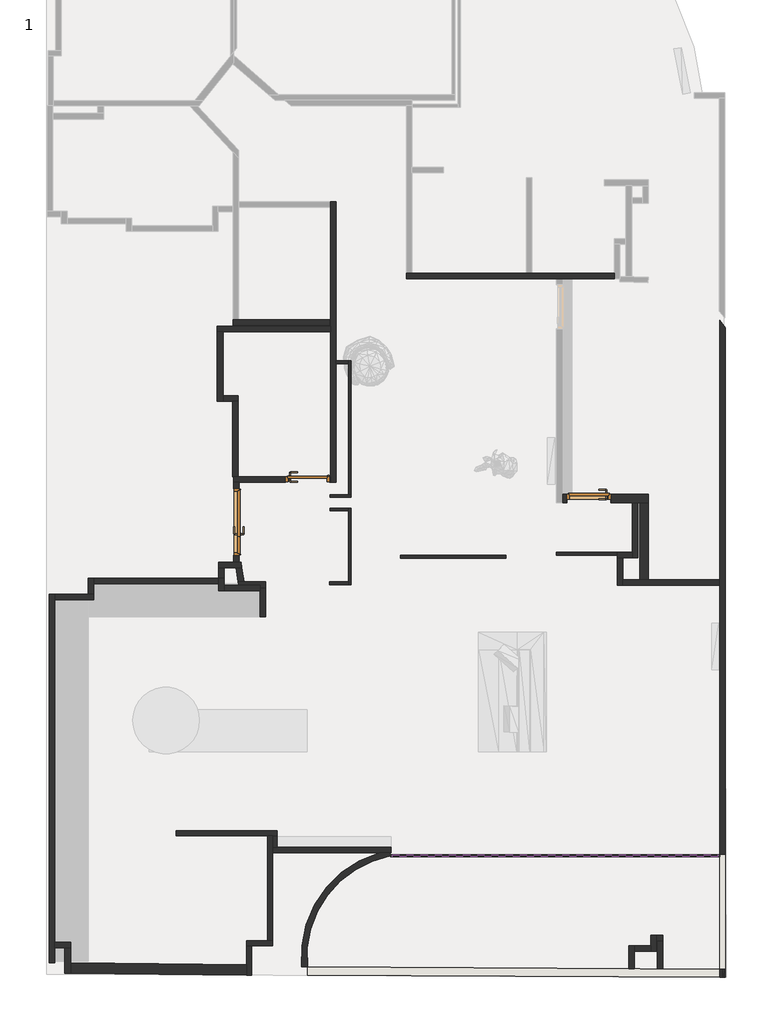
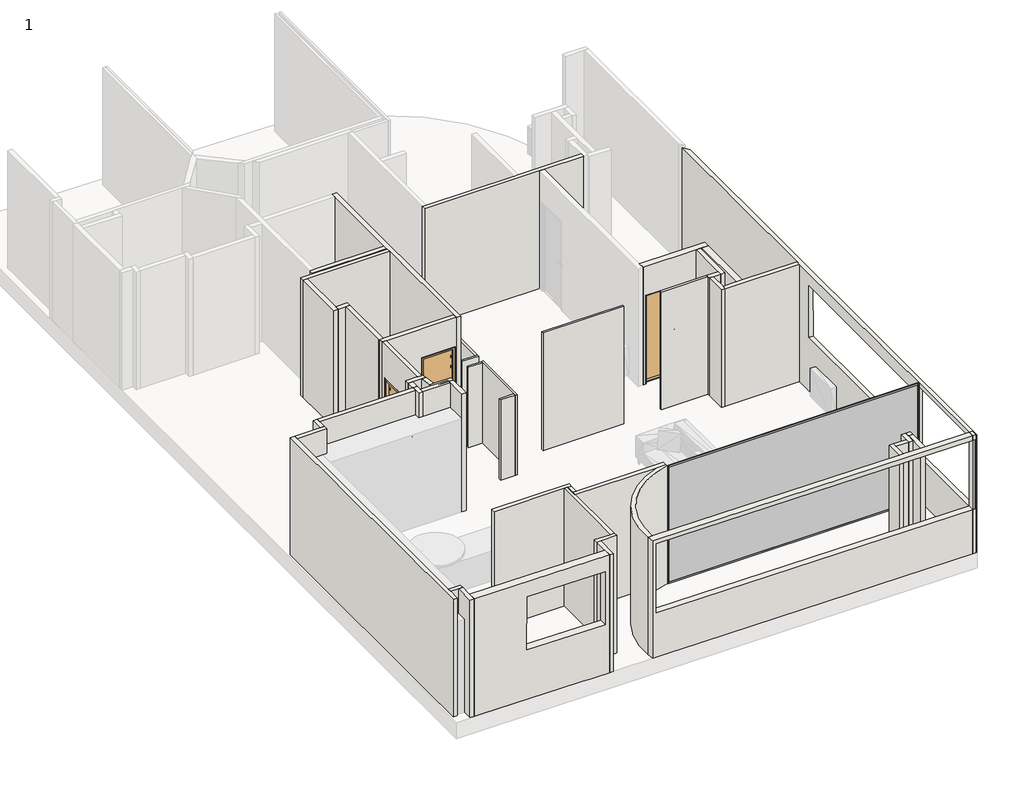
# One storey, part 1 of 11: 51 walls, 4 members, 3 doors, 1 plate.
"""IFC4 building model written with IfcOpenShell, lengths in millimetres."""

from ifc_helpers import new_model, si_unit, point, frame, frame_2d, origin, origin_with_axes, place, context, project, spatial, polyline, circle_curve, trimmed, segment, composite_curve, outline, extrude, faceted_brep, transform, mapped, element, save
from ifc_brep_helpers import plane_surface, cylinder_surface, advanced_brep
from components import door_2890b558, door_da3bd5c2, jw_interior_door_stable_401_unequal_double_1_0_84d4197c, jw_interior_door_stable_401_unequal_double_1_0_001e30e6, rectangular_mullion_30mm_square_bb45b953, rectangular_mullion_30mm_square_7a787dcd

model = new_model("IFC4")

# Units and contexts
model_context = context("Model", 3, world=origin())
ifc_project = project(units=[si_unit("LENGTHUNIT", "METRE", prefix="MILLI")], contexts=[model_context])

# Site, building, storey
site = spatial("IfcSite", under=ifc_project)
building = spatial("IfcBuilding", under=site)
storey = spatial("IfcBuildingStorey", under=building, Name="1", Elevation=0.0)

# Doors
placement = place(None, origin())
door_shape = door_2890b558(model_context)
element("IfcDoor", 1, ObjectType="JW_Interior_Door_Steady_411_Single_1.0 : 790 x 1890 mm - M8 x M19", at=placement, inside=storey, context=model_context, shape_type="MappedRepresentation", body=[
    mapped(door_shape, transform((92176.985489, -36173.730465, 0.0), x_axis=(1.0, 0.0, 0.0), y_axis=(0.0, 1.0, 0.0), z_axis=(0.0, 0.0, 1.0))),
])
door_2_shape = door_da3bd5c2(model_context)
element("IfcDoor", 2, ObjectType="JW_Interior_Door_Steady_411_Single_1.0 : 790 x 1890 mm - M8 x M19", at=placement, inside=storey, context=model_context, shape_type="MappedRepresentation", body=[
    mapped(door_2_shape, transform((97248.4901558, -36512.586633, 0.0), x_axis=(-1.0, 0.0, 0.0), y_axis=(0.0, -1.0, 0.0), z_axis=(0.0, 0.0, 1.0))),
])
jw_interior_door_stable_401_unequal_double_1_0_shape = jw_interior_door_stable_401_unequal_double_1_0_84d4197c(model_context)
jw_interior_door_stable_401_unequal_double_1_0_2_shape = jw_interior_door_stable_401_unequal_double_1_0_001e30e6(model_context)
element("IfcDoor", 3, ObjectType="JW_Interior_Door_Stable_401_Unequal_Double_1.0 : 1290 x 2090 mm - M13 (M10+30) x M21", at=placement, inside=storey, context=model_context, shape_type="MappedRepresentation", body=[
    mapped(jw_interior_door_stable_401_unequal_double_1_0_shape, transform((90897.0142855, -36938.730465, 0.0), x_axis=(0.0, 1.0, 0.0), y_axis=(-1.0, 0.0, 0.0), z_axis=(0.0, 0.0, 1.0))),
    mapped(jw_interior_door_stable_401_unequal_double_1_0_2_shape, transform((90897.0142855, -36938.730465, 0.0), x_axis=(0.0, 1.0, 0.0), y_axis=(-1.0, 0.0, 0.0), z_axis=(0.0, 0.0, 1.0))),
])

# Members
rectangular_mullion_30mm_square_shape = rectangular_mullion_30mm_square_bb45b953(model_context)
element("IfcMember", 4, ObjectType="Rectangular Mullion : 30mm Square", at=placement, inside=storey, context=model_context, shape_type="MappedRepresentation", body=[
    mapped(rectangular_mullion_30mm_square_shape, transform((99604.3502509, -42951.2807149, 0.0), x_axis=(1.0, 0.0, 0.0), y_axis=(0.0, -1.0, 0.0), z_axis=(0.0, 0.0, -1.0))),
])
element("IfcMember", 5, ObjectType="Rectangular Mullion : 30mm Square", at=placement, inside=storey, context=model_context, shape_type="MappedRepresentation", body=[
    mapped(rectangular_mullion_30mm_square_shape, transform((93676.9863057, -42951.2807149, 2930.0), x_axis=(-1.0, 0.0, 0.0), y_axis=(0.0, -1.0, 0.0), z_axis=(0.0, 0.0, 1.0))),
])
rectangular_mullion_30mm_square_2_shape = rectangular_mullion_30mm_square_7a787dcd(model_context)
element("IfcMember", 6, ObjectType="Rectangular Mullion : 30mm Square", at=placement, inside=storey, context=model_context, shape_type="MappedRepresentation", body=[
    mapped(rectangular_mullion_30mm_square_2_shape, transform((99574.3502509, -42951.2807149, 2930.0), x_axis=(0.0, 0.0, 1.0), y_axis=(0.0, -1.0, 0.0), z_axis=(1.0, 0.0, 0.0))),
])
element("IfcMember", 7, ObjectType="Rectangular Mullion : 30mm Square", at=placement, inside=storey, context=model_context, shape_type="MappedRepresentation", body=[
    mapped(rectangular_mullion_30mm_square_2_shape, transform((93706.9863057, -42951.2807149, 0.0), x_axis=(0.0, 0.0, -1.0), y_axis=(0.0, -1.0, 0.0), z_axis=(-1.0, 0.0, 0.0))),
])

# Plate
element("IfcPlate", 8, ObjectType="glass", at=placement, inside=storey, context=model_context, shape_type="SweptSolid", body=[
    extrude(outline(polyline([(99574.3502509, -42953.7807149), (93706.9863057, -42953.7807149), (93706.9863057, -42948.7807149), (99574.3502509, -42948.7807149), (99574.3502509, -42953.7807149)])), frame((0.0, 0.0, 30.0), z_axis=(0.0, 0.0, 1.0), x_axis=(1.0, 0.0, 0.0)), (0.0, 0.0, 1.0), 2870.0),
])

# Walls
element("IfcWall", 9, ObjectType="10", at=placement, inside=storey, context=model_context, shape_type="Brep", body=[
    faceted_brep([(87622.8142829, -44877.0099344, 0.0), (87622.8142829, -44608.0490741, 0.0), (87622.8142829, -44508.0490741, 0.0), (87622.8142829, -38338.529662, 0.0), (87622.8142829, -38238.529662, 0.0), (87622.8142829, -38238.529662, 2930.0), (87622.8142829, -38338.529662, 2930.0), (87622.8142829, -44508.0490741, 2930.0), (87622.8142829, -44608.0490741, 2930.0), (87622.8142829, -44877.0099344, 2930.0), (87522.8142829, -44877.0099344, 0.0), (87522.8142829, -44877.0099344, 2930.0), (87522.8142829, -38238.529662, 2930.0), (87522.8142829, -38238.529662, 0.0)], [[[0, 1, 2, 3, 4, 5, 6, 7, 8, 9]], [[10, 11, 12, 13]], [[4, 3, 2, 1, 0, 10, 13]], [[9, 8, 7, 6, 5, 12, 11]], [[0, 9, 11, 10]], [[5, 4, 13, 12]]]),
])
element("IfcWall", 10, ObjectType="10", at=placement, inside=storey, context=model_context, shape_type="Brep", body=[
    faceted_brep([(87622.8142829, -38338.529662, 0.0), (88323.5455637, -38338.529662, 0.0), (88323.5455637, -38338.529662, 2930.0), (87622.8142829, -38338.529662, 2930.0), (87622.8142829, -38238.529662, 0.0), (87622.8142829, -38238.529662, 2930.0), (88223.5455637, -38238.529662, 2930.0), (88323.5455637, -38238.529662, 2930.0), (88323.5455637, -38238.529662, 0.0), (88223.5455637, -38238.529662, 0.0)], [[[0, 1, 2, 3]], [[4, 5, 6, 7, 8, 9]], [[1, 0, 4, 9, 8]], [[3, 2, 7, 6, 5]], [[0, 3, 5, 4]], [[2, 1, 8, 7]]]),
])
element("IfcWall", 11, ObjectType="10", at=placement, inside=storey, context=model_context, shape_type="Brep", body=[
    faceted_brep([(88323.5455637, -38238.529662, 0.0), (88323.5455637, -38048.8343253, 0.0), (88323.5455637, -37948.8343253, 0.0), (88323.5455637, -37948.8343253, 2930.0), (88323.5455637, -38048.8343253, 2930.0), (88323.5455637, -38238.529662, 2930.0), (88223.5455637, -38238.529662, 0.0), (88223.5455637, -38238.529662, 2930.0), (88223.5455637, -37948.8343253, 2930.0), (88223.5455637, -37948.8343253, 0.0)], [[[0, 1, 2, 3, 4, 5]], [[6, 7, 8, 9]], [[2, 1, 0, 6, 9]], [[5, 4, 3, 8, 7]], [[0, 5, 7, 6]], [[3, 2, 9, 8]]]),
])
element("IfcWall", 12, ObjectType="10", at=placement, inside=storey, context=model_context, shape_type="Brep", body=[
    faceted_brep([(88323.5455637, -38048.8343253, 0.0), (90577.8549068, -38048.8343253, 0.0), (90577.8549068, -38048.8343253, 2930.0), (88323.5455637, -38048.8343253, 2930.0), (88323.5455637, -37948.8343253, 0.0), (88323.5455637, -37948.8343253, 2930.0), (90575.9559803, -37948.8343253, 2930.0), (90577.8549068, -37948.8343253, 2930.0), (90577.8549068, -37948.8343253, 0.0), (90575.9559803, -37948.8343253, 0.0)], [[[0, 1, 2, 3]], [[4, 5, 6, 7, 8, 9]], [[1, 0, 4, 9, 8]], [[3, 2, 7, 6, 5]], [[0, 3, 5, 4]], [[2, 1, 8, 7]]]),
])
element("IfcWall", 13, ObjectType="10", at=placement, inside=storey, context=model_context, shape_type="Brep", body=[
    faceted_brep([(90577.8549068, -37948.8343253, 0.0), (90577.8549068, -38048.8343253, 0.0), (90577.8549068, -38176.8652386, 0.0), (90577.8549068, -38176.8652386, 2930.0), (90577.8549068, -38048.8343253, 2930.0), (90577.8549068, -37948.8343253, 2930.0), (90677.8549068, -37948.8343253, 0.0), (90677.8549068, -37948.8343253, 2930.0), (90677.8549068, -38076.8652386, 2930.0), (90677.8549068, -38176.8652386, 2930.0), (90677.8549068, -38176.8652386, 0.0), (90677.8549068, -38076.8652386, 0.0), (90675.9559803, -37948.8343253, 0.0), (90675.9559803, -37948.8343253, 2930.0)], [[[0, 1, 2, 3, 4, 5]], [[6, 7, 8, 9, 10, 11]], [[2, 1, 0, 12, 6, 11, 10]], [[5, 4, 3, 9, 8, 7, 13]], [[0, 5, 13, 7, 6, 12]], [[3, 2, 10, 9]]]),
])
element("IfcWall", 14, ObjectType="10", at=placement, inside=storey, context=model_context, shape_type="Brep", body=[
    faceted_brep([(91323.5455637, -38076.8652386, 0.0), (90677.8549068, -38076.8652386, 0.0), (90677.8549068, -38076.8652386, 2930.0), (91323.5455637, -38076.8652386, 2930.0), (91323.5455637, -38176.8652386, 0.0), (91323.5455637, -38176.8652386, 2930.0), (90677.8549068, -38176.8652386, 2930.0), (90677.8549068, -38176.8652386, 0.0), (91323.5455637, -38119.3382084, 0.0), (91323.5455637, -38119.3382084, 2930.0)], [[[0, 1, 2, 3]], [[4, 5, 6, 7]], [[1, 0, 8, 4, 7]], [[3, 2, 6, 5, 9]], [[2, 1, 7, 6]], [[0, 3, 9, 5, 4, 8]]]),
])
element("IfcWall", 15, ObjectType="10", at=placement, inside=storey, context=model_context, shape_type="Brep", body=[
    faceted_brep([(90944.1322252, -38119.3382084, 0.0), (91323.5455637, -38119.3382084, 0.0), (91423.5455637, -38119.3382084, 0.0), (91423.5455637, -38119.3382084, 2930.0), (91323.5455637, -38119.3382084, 2930.0), (90944.1322252, -38119.3382084, 2930.0), (90929.1230947, -38019.3382084, 0.0), (90929.1230947, -38019.3382084, 2930.0), (91030.2431916, -38019.3382084, 2930.0), (91423.5455637, -38019.3382084, 2930.0), (91423.5455637, -38019.3382084, 0.0), (91030.2431916, -38019.3382084, 0.0)], [[[0, 1, 2, 3, 4, 5]], [[6, 7, 8, 9, 10, 11]], [[2, 1, 0, 6, 11, 10]], [[5, 4, 3, 9, 8, 7]], [[0, 5, 7, 6]], [[3, 2, 10, 9]]]),
])
element("IfcWall", 16, ObjectType="10", at=placement, inside=storey, context=model_context, shape_type="Brep", body=[
    faceted_brep([(90976.3695058, -37660.3987882, 0.0), (90947.0142855, -37660.5430263, 0.0), (90847.0142855, -37661.0343803, 0.0), (90575.9559803, -37662.3662361, 0.0), (90575.9559803, -37662.3662361, 2930.0), (90847.0142855, -37661.0343803, 2930.0), (90947.0142855, -37660.5430263, 2930.0), (90976.3695058, -37660.3987882, 2930.0), (90991.3677565, -37760.3263008, 0.0), (90991.3677565, -37760.3263008, 2930.0), (90890.3221787, -37760.8227923, 2930.0), (90675.9559803, -37761.8760892, 2930.0), (90575.9559803, -37762.3674432, 2930.0), (90575.9559803, -37762.3674432, 0.0), (90675.9559803, -37761.8760892, 0.0), (90890.3221787, -37760.8227923, 0.0)], [[[0, 1, 2, 3, 4, 5, 6, 7]], [[8, 9, 10, 11, 12, 13, 14, 15]], [[3, 2, 1, 0, 8, 15, 14, 13]], [[7, 6, 5, 4, 12, 11, 10, 9]], [[4, 3, 13, 12]], [[0, 7, 9, 8]]]),
])
element("IfcWall", 17, ObjectType="10", at=placement, inside=storey, context=model_context, shape_type="Brep", body=[
    faceted_brep([(90575.9559803, -37762.3674432, 0.0), (90575.9559803, -37948.8343253, 0.0), (90575.9559803, -37948.8343253, 2930.0), (90575.9559803, -37762.3674432, 2930.0), (90675.9559803, -37761.8760892, 0.0), (90675.9559803, -37761.8760892, 2930.0), (90675.9559803, -37948.8343253, 2930.0), (90675.9559803, -37948.8343253, 0.0), (90577.8549068, -37948.8343253, 0.0), (90577.8549068, -37948.8343253, 2930.0)], [[[0, 1, 2, 3]], [[4, 5, 6, 7]], [[1, 0, 4, 7, 8]], [[3, 2, 9, 6, 5]], [[2, 1, 8, 7, 6, 9]], [[0, 3, 5, 4]]]),
])
element("IfcWall", 18, ObjectType="10", at=placement, inside=storey, context=model_context, shape_type="SweptSolid", body=[
    extrude(outline(polyline([(90991.3677565, -37760.3263008), (91030.2431916, -38019.3382084), (90929.1230947, -38019.3382084), (90890.3221787, -37760.8227923), (90991.3677565, -37760.3263008)])), origin_with_axes(), (0.0, 0.0, 1.0), 2930.0),
])
element("IfcWall", 19, ObjectType="10", at=placement, inside=storey, context=model_context, shape_type="Brep", body=[
    faceted_brep([(97709.8270097, -32459.1888995, 0.0), (96224.9879055, -32459.1888995, 0.0), (96124.9879055, -32459.1888995, 0.0), (94062.5845465, -32459.1888995, 0.0), (93962.5845465, -32459.1888995, 0.0), (93962.5845465, -32459.1888995, 2930.0), (94062.5845465, -32459.1888995, 2930.0), (96124.9879055, -32459.1888995, 2930.0), (96224.9879055, -32459.1888995, 2930.0), (97709.8270097, -32459.1888995, 2930.0), (97709.8270097, -32559.1888995, 0.0), (97709.8270097, -32559.1888995, 2930.0), (96783.359081, -32559.1888995, 2930.0), (96663.359081, -32559.1888995, 2930.0), (93962.5845465, -32559.1888995, 2930.0), (93962.5845465, -32559.1888995, 0.0), (96663.359081, -32559.1888995, 0.0), (96783.359081, -32559.1888995, 0.0)], [[[0, 1, 2, 3, 4, 5, 6, 7, 8, 9]], [[10, 11, 12, 13, 14, 15, 16, 17]], [[4, 3, 2, 1, 0, 10, 17, 16, 15]], [[9, 8, 7, 6, 5, 14, 13, 12, 11]], [[5, 4, 15, 14]], [[0, 9, 11, 10]]]),
])
element("IfcWall", 20, ObjectType="10", at=placement, inside=storey, context=model_context, shape_type="Brep", body=[
    faceted_brep([(98133.4901558, -37587.0812245, 0.0), (98133.4901558, -36587.586633, 0.0), (98133.4901558, -36587.586633, 2930.0), (98133.4901558, -37587.0812245, 2930.0), (98033.4901558, -37587.0812245, 0.0), (98033.4901558, -37587.0812245, 2930.0), (98033.4901558, -37487.0812245, 2930.0), (98033.4901558, -36587.586633, 2930.0), (98033.4901558, -36587.586633, 0.0), (98033.4901558, -37487.0812245, 0.0)], [[[0, 1, 2, 3]], [[4, 5, 6, 7, 8, 9]], [[1, 0, 4, 9, 8]], [[3, 2, 7, 6, 5]], [[0, 3, 5, 4]], [[2, 1, 8, 7]]]),
])
element("IfcWall", 21, ObjectType="10", at=placement, inside=storey, context=model_context, shape_type="Brep", body=[
    faceted_brep([(97761.5820716, -37587.0812245, 0.0), (97861.5820716, -37587.0812245, 0.0), (98033.4901558, -37587.0812245, 0.0), (98033.4901558, -37587.0812245, 2930.0), (97861.5820716, -37587.0812245, 2930.0), (97761.5820716, -37587.0812245, 2930.0), (97761.5820716, -37487.0812245, 0.0), (97761.5820716, -37487.0812245, 2930.0), (98033.4901558, -37487.0812245, 2930.0), (98033.4901558, -37487.0812245, 0.0), (97761.5820716, -37537.0812245, 0.0), (97761.5820716, -37537.0812245, 2930.0)], [[[0, 1, 2, 3, 4, 5]], [[6, 7, 8, 9]], [[2, 1, 0, 10, 6, 9]], [[5, 4, 3, 8, 7, 11]], [[3, 2, 9, 8]], [[0, 5, 11, 7, 6, 10]]]),
])
element("IfcWall", 22, ObjectType="10", at=placement, inside=storey, context=model_context, shape_type="Brep", body=[
    faceted_brep([(97861.5820716, -38079.0911008, 0.0), (97861.5820716, -37979.0911008, 0.0), (97861.5820716, -37587.0812245, 0.0), (97861.5820716, -37587.0812245, 2930.0), (97861.5820716, -37979.0911008, 2930.0), (97861.5820716, -38079.0911008, 2930.0), (97761.5820716, -38079.0911008, 0.0), (97761.5820716, -38079.0911008, 2930.0), (97761.5820716, -37587.0812245, 2930.0), (97761.5820716, -37587.0812245, 0.0)], [[[0, 1, 2, 3, 4, 5]], [[6, 7, 8, 9]], [[2, 1, 0, 6, 9]], [[5, 4, 3, 8, 7]], [[3, 2, 9, 8]], [[0, 5, 7, 6]]]),
])
element("IfcWall", 23, ObjectType="10", at=placement, inside=storey, context=model_context, shape_type="Brep", body=[
    faceted_brep([(92571.6623677, -33295.0432802, 0.0), (90933.200692, -33295.0432802, 0.0), (90833.200692, -33295.0432802, 0.0), (90833.200692, -33295.0432802, 2930.0), (90933.200692, -33295.0432802, 2930.0), (92571.6623677, -33295.0432802, 2930.0), (92571.6623677, -33395.0432802, 0.0), (92571.6623677, -33395.0432802, 2930.0), (90833.200692, -33395.0432802, 2930.0), (90833.200692, -33395.0432802, 0.0)], [[[0, 1, 2, 3, 4, 5]], [[6, 7, 8, 9]], [[2, 1, 0, 6, 9]], [[5, 4, 3, 8, 7]], [[0, 5, 7, 6]], [[3, 2, 9, 8]]]),
])
element("IfcWall", 24, ObjectType="10", at=placement, inside=storey, context=model_context, shape_type="Brep", body=[
    faceted_brep([(87905.0220654, -44508.0490741, 0.0), (87622.8142829, -44508.0490741, 0.0), (87622.8142829, -44508.0490741, 2930.0), (87905.0220654, -44508.0490741, 2930.0), (87905.0220654, -44608.0490741, 0.0), (87905.0220654, -44608.0490741, 2930.0), (87805.0220654, -44608.0490741, 2930.0), (87622.8142829, -44608.0490741, 2930.0), (87622.8142829, -44608.0490741, 0.0), (87805.0220654, -44608.0490741, 0.0)], [[[0, 1, 2, 3]], [[4, 5, 6, 7, 8, 9]], [[1, 0, 4, 9, 8]], [[3, 2, 7, 6, 5]], [[2, 1, 8, 7]], [[0, 3, 5, 4]]]),
])
element("IfcWall", 25, ObjectType="10", at=placement, inside=storey, context=model_context, shape_type="Brep", body=[
    faceted_brep([(87905.0220654, -45067.0203739, 0.0), (87905.0220654, -44877.0099344, 0.0), (87905.0220654, -44608.0490741, 0.0), (87905.0220654, -44608.0490741, 2930.0), (87905.0220654, -44877.0099344, 2930.0), (87905.0220654, -45067.0203739, 2930.0), (87805.0220654, -45065.9720771, 0.0), (87805.0220654, -45065.9720771, 2930.0), (87805.0220654, -44608.0490741, 2930.0), (87805.0220654, -44608.0490741, 0.0)], [[[0, 1, 2, 3, 4, 5]], [[6, 7, 8, 9]], [[2, 1, 0, 6, 9]], [[5, 4, 3, 8, 7]], [[3, 2, 9, 8]], [[0, 5, 7, 6]]]),
])
element("IfcWall", 26, ObjectType="10", at=placement, inside=storey, context=model_context, shape_type="Brep", body=[
    faceted_brep([(91527.1267853, -42897.4205618, 0.0), (93471.9479258, -42897.4205618, 0.0), (93666.934871, -42897.4205618, 0.0), (93677.1267853, -42897.4205618, 0.0), (93677.1267853, -42897.4205618, 2930.0), (93666.934871, -42897.4205618, 2930.0), (93471.9479258, -42897.4205618, 2930.0), (91527.1267853, -42897.4205618, 2930.0), (91527.1267853, -42797.4205618, 0.0), (91527.1267853, -42797.4205618, 2930.0), (91627.1267853, -42797.4205618, 2930.0), (93677.1267853, -42797.4205618, 2930.0), (93677.1267853, -42797.4205618, 0.0), (91627.1267853, -42797.4205618, 0.0)], [[[0, 1, 2, 3, 4, 5, 6, 7]], [[8, 9, 10, 11, 12, 13]], [[3, 2, 1, 0, 8, 13, 12]], [[4, 3, 12, 11]], [[7, 6, 5, 4, 11, 10, 9]], [[0, 7, 9, 8]]]),
])
element("IfcWall", 27, ObjectType="10", at=placement, inside=storey, context=model_context, shape_type="SweptSolid", body=[
    extrude(outline(composite_curve([segment(trimmed(circle_curve(frame_2d((94016.5482861, -44770.808053)), 1850.9408614), [point((93676.9863057, -42951.2807149))], [point((92174.4631437, -44951.6516334))], True, "CARTESIAN"), True, "CONTINUOUS"), segment(polyline([(92174.4631437, -44951.6516334), (92073.9569016, -44951.1104585)]), True, "CONTINUOUS"), segment(trimmed(circle_curve(frame_2d((94016.5482861, -44770.808053)), 1950.9408614), [point((92073.9569016, -44951.1104585))], [point((93471.9479258, -42897.4205618))], False, "CARTESIAN"), True, "CONTINUOUS"), segment(polyline([(93471.9479258, -42897.4205618), (93666.934871, -42897.4205618), (93676.9863057, -42951.2807149)]), True, "CONTINUOUS")], self_intersect=False)), origin_with_axes(), (0.0, 0.0, 1.0), 2930.0),
])
element("IfcWall", 28, ObjectType="10", at=placement, inside=storey, context=model_context, shape_type="Brep", body=[
    faceted_brep([(97861.5820716, -38079.0911008, 0.0), (99604.3502509, -38079.0911008, 0.0), (99604.3502509, -38079.0911008, 2930.0), (97861.5820716, -38079.0911008, 2930.0), (97861.5820716, -37979.0911008, 0.0), (97861.5820716, -37979.0911008, 2930.0), (98169.1043164, -37979.0911008, 2930.0), (98319.1043164, -37979.0911008, 2930.0), (99604.3502509, -37979.0911008, 2930.0), (99604.3502509, -37979.0911008, 0.0), (98319.1043164, -37979.0911008, 0.0), (98169.1043164, -37979.0911008, 0.0)], [[[0, 1, 2, 3]], [[4, 5, 6, 7, 8, 9, 10, 11]], [[1, 0, 4, 11, 10, 9]], [[3, 2, 8, 7, 6, 5]], [[0, 3, 5, 4]], [[2, 1, 9, 8]]]),
])
element("IfcWall", 29, ObjectType="10", at=placement, inside=storey, context=model_context, shape_type="Brep", body=[
    faceted_brep([(92591.985489, -36223.730465, 2930.0), (90947.0142855, -36223.730465, 2930.0), (90847.0142855, -36223.730465, 2930.0), (90847.0142855, -36223.730465, 0.0), (90947.0142855, -36223.730465, 0.0), (91771.985489, -36223.730465, 0.0), (91771.985489, -36223.730465, 2210.0), (92581.985489, -36223.730465, 2210.0), (92581.985489, -36223.730465, 0.0), (92591.985489, -36223.730465, 0.0), (90847.0142855, -36123.730465, 2930.0), (90925.423998, -36123.730465, 2930.0), (92591.985489, -36123.730465, 2930.0), (92591.985489, -36123.730465, 0.0), (92581.985489, -36123.730465, 0.0), (92581.985489, -36123.730465, 2210.0), (91771.985489, -36123.730465, 2210.0), (91771.985489, -36123.730465, 0.0), (90925.423998, -36123.730465, 0.0), (90847.0142855, -36123.730465, 0.0)], [[[0, 1, 2, 3, 4, 5, 6, 7, 8, 9]], [[10, 11, 12, 13, 14, 15, 16, 17, 18, 19]], [[3, 19, 18, 17, 5, 4]], [[13, 9, 8, 14]], [[2, 1, 0, 12, 11, 10]], [[3, 2, 10, 19]], [[7, 15, 14, 8]], [[15, 7, 6, 16]], [[16, 6, 5, 17]], [[0, 9, 13, 12]]]),
])
element("IfcWall", 30, ObjectType="10", at=placement, inside=storey, context=model_context, shape_type="AdvancedBrep", body=[
    advanced_brep(
    [(99604.3502509, -33301.0926514, 0.0), (99604.3502509, -37979.0911008, 0.0), (99604.3502509, -38079.0911008, 0.0), (99604.3502509, -45141.6599642, 0.0), (99604.3502509, -45141.6599642, 2930.0), (99604.3502509, -38079.0911008, 2930.0), (99604.3502509, -37979.0911008, 2930.0), (99604.3502509, -33301.0926514, 2930.0), (99604.3502509, -38454.2999204, 2616.0), (99604.3502509, -42912.9999204, 2611.0), (99604.3502509, -42916.8999204, 1339.0), (99604.3502509, -38459.4999204, 1331.0), (99604.3502509, -44991.9670941, 2820.0), (99604.3502509, -44991.9670941, 1100.0), (99604.3502509, -42921.9241007, 1100.0), (99604.3502509, -42921.9241007, 2820.0), (99704.3502509, -33443.2719582, 0.0), (99704.3502509, -33443.2719582, 2930.0), (99704.3502509, -45142.1984132, 2930.0), (99704.3502509, -45142.1984132, 0.0), (99704.3502509, -38454.2999204, 2616.0), (99704.3502509, -38459.4999204, 1331.0), (99704.3502509, -42916.8999204, 1339.0), (99704.3502509, -42912.9999204, 2611.0), (99704.3502509, -44991.9670941, 2820.0), (99704.3502509, -42921.9241007, 2820.0), (99704.3502509, -42921.9241007, 1100.0), (99704.3502509, -44991.9670941, 1100.0)],
    [
        (0, 1),
        (1, 2),
        (2, 3),
        (3, 4),
        (4, 5),
        (5, 6),
        (6, 7),
        (7, 0),
        (8, 9),
        (9, 10),
        (10, 11),
        (11, 8),
        (12, 13),
        (13, 14),
        (14, 15),
        (15, 12),
        (16, 17),
        (17, 18),
        (18, 19),
        (19, 16),
        (20, 21),
        (21, 22),
        (22, 23),
        (23, 20),
        (24, 25),
        (25, 26),
        (26, 27),
        (27, 24),
        (7, 17, circle_curve(frame((98230.1632712, -34373.8660322, 2930.0), z_axis=(0.0, 0.0, -1.0), x_axis=(1.0, 0.0, 0.0)), 1743.3394913)),
        (16, 0, circle_curve(frame((98230.1632712, -34373.8660322, 0.0), z_axis=(0.0, 0.0, 1.0), x_axis=(1.0, 0.0, 0.0)), 1743.3394913)),
        (19, 3),
        (4, 18),
        (8, 20),
        (23, 9),
        (22, 10),
        (21, 11),
        (12, 24),
        (27, 13),
        (26, 14),
        (25, 15),
    ],
    [
        plane_surface(frame((99604.3502509, -33284.0229345, 0.0), z_axis=(-1.0, 0.0, 0.0), x_axis=(0.0, -1.0, 0.0))),
        plane_surface(frame((99704.3502509, -33284.0229345, 0.0), z_axis=(1.0, 0.0, 0.0), x_axis=(0.0, 1.0, 0.0))),
        cylinder_surface(frame((98230.1632712, -34373.8660322, 0.0), z_axis=(0.0, 0.0, -1.0), x_axis=(1.0, 0.0, 0.0)), 1743.3394913),
        plane_surface(frame((99604.3502509, -33284.0229345, 0.0), z_axis=(0.0, 0.0, -1.0), x_axis=(1.0, 0.0, 0.0))),
        plane_surface(frame((99604.3502509, -45066.9281015, 2930.0), z_axis=(0.0, 0.0, 1.0), x_axis=(1.0, 0.0, 0.0))),
        plane_surface(frame((99604.3502509, -38454.2999204, 2616.0), z_axis=(0.0, 0.0011214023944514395, -0.9999993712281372), x_axis=(1.0, 0.0, 0.0))),
        plane_surface(frame((99604.3502509, -42912.9999204, 2611.0), z_axis=(0.0, 0.9999952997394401, -0.003066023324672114), x_axis=(1.0, 0.0, 0.0))),
        plane_surface(frame((99604.3502509, -42916.8999204, 1339.0), z_axis=(0.0, 0.0017947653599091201, 0.9999983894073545), x_axis=(1.0, 0.0, 0.0))),
        plane_surface(frame((99604.3502509, -38459.4999204, 1331.0), z_axis=(0.0, -0.9999918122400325, 0.004046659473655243), x_axis=(1.0, 0.0, 0.0))),
        plane_surface(frame((99604.3502509, -44991.9670941, 2820.0), z_axis=(0.0, 1.0, 0.0), x_axis=(1.0, 0.0, 0.0))),
        plane_surface(frame((99604.3502509, -44991.9670941, 1100.0), z_axis=(0.0, 0.0, 1.0), x_axis=(1.0, 0.0, 0.0))),
        plane_surface(frame((99604.3502509, -42921.9241007, 1100.0), z_axis=(0.0, -1.0, 0.0), x_axis=(1.0, 0.0, 0.0))),
        plane_surface(frame((99604.3502509, -42921.9241007, 2820.0), z_axis=(0.0, 0.0, -1.0), x_axis=(1.0, 0.0, 0.0))),
        plane_surface(frame((92132.4687389, -45101.4276893, 0.0), z_axis=(-0.005384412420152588, -0.9999855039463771, 0.0), x_axis=(0.9999855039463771, -0.005384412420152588, 0.0))),
    ],
    [
        (0, [[1, 2, 3, 4, 5, 6, 7, 8], [9, 10, 11, 12], [13, 14, 15, 16]]),
        (1, [[17, 18, 19, 20], [21, 22, 23, 24], [25, 26, 27, 28]]),
        (2, [[-8, 29, -17, 30]]),
        (3, [[-3, -2, -1, -30, -20, 31]]),
        (4, [[-7, -6, -5, 32, -18, -29]]),
        (5, [[-9, 33, -24, 34]]),
        (6, [[-10, -34, -23, 35]]),
        (7, [[-11, -35, -22, 36]]),
        (8, [[-12, -36, -21, -33]]),
        (9, [[-13, 37, -28, 38]]),
        (10, [[-14, -38, -27, 39]]),
        (11, [[-15, -39, -26, 40]]),
        (12, [[-16, -40, -25, -37]]),
        (13, [[-31, -19, -32, -4]]),
    ],
),
])
element("IfcWall", 31, ObjectType="10", at=placement, inside=storey, context=model_context, shape_type="SweptSolid", body=[
    extrude(outline(polyline([(91627.1267853, -42590.4619741), (91627.1267853, -42797.4205618), (91527.1267853, -42797.4205618), (91527.1267853, -42590.4619741), (91627.1267853, -42590.4619741)])), origin_with_axes(), (0.0, 0.0, 1.0), 2930.0),
])
element("IfcWall", 32, ObjectType="10", at=placement, inside=storey, context=model_context, shape_type="Brep", body=[
    faceted_brep([(90847.0142855, -37661.0343803, 2930.0), (90847.0142855, -36223.730465, 2930.0), (90847.0142855, -36223.730465, 0.0), (90847.0142855, -36328.730465, 0.0), (90847.0142855, -36328.730465, 2100.0), (90847.0142855, -37548.730465, 2100.0), (90847.0142855, -37548.730465, 0.0), (90847.0142855, -37661.0343803, 0.0), (90947.0142855, -36223.730465, 2930.0), (90947.0142855, -37660.5430263, 2930.0), (90947.0142855, -37660.5430263, 0.0), (90947.0142855, -37548.730465, 0.0), (90947.0142855, -37548.730465, 2100.0), (90947.0142855, -36328.730465, 2100.0), (90947.0142855, -36328.730465, 0.0), (90947.0142855, -36223.730465, 0.0)], [[[0, 1, 2, 3, 4, 5, 6, 7]], [[8, 9, 10, 11, 12, 13, 14, 15]], [[2, 15, 14, 3]], [[10, 7, 6, 11]], [[1, 0, 9, 8]], [[2, 1, 8, 15]], [[0, 7, 10, 9]], [[13, 4, 3, 14]], [[4, 13, 12, 5]], [[5, 12, 11, 6]]]),
])
element("IfcWall", 33, ObjectType="10", at=placement, inside=storey, context=model_context, shape_type="Brep", body=[
    faceted_brep([(97965.2041986, -44574.6661473, 0.0), (97965.2041986, -44982.8318234, 0.0), (97965.2041986, -44982.8318234, 2930.0), (97965.2041986, -44574.6661473, 2930.0), (98065.2041986, -44574.6661473, 0.0), (98065.2041986, -44574.6661473, 2930.0), (98065.2041986, -44674.6661473, 2930.0), (98065.2041986, -44983.3702725, 2930.0), (98065.2041986, -44983.3702725, 0.0), (98065.2041986, -44674.6661473, 0.0)], [[[0, 1, 2, 3]], [[4, 5, 6, 7, 8, 9]], [[1, 0, 4, 9, 8]], [[3, 2, 7, 6, 5]], [[0, 3, 5, 4]], [[1, 8, 7, 2]]]),
])
element("IfcWall", 34, ObjectType="10", at=placement, inside=storey, context=model_context, shape_type="SweptSolid", body=[
    extrude(outline(polyline([(98065.2041986, -44574.6661473), (98365.1993701, -44574.6661473), (98365.1993701, -44674.6661473), (98065.2041986, -44674.6661473), (98065.2041986, -44574.6661473)])), origin_with_axes(), (0.0, 0.0, 1.0), 2930.0),
])
element("IfcWall", 35, ObjectType="10", at=placement, inside=storey, context=model_context, shape_type="Brep", body=[
    faceted_brep([(98365.1993701, -44381.7580772, 0.0), (98365.1993701, -44574.6661473, 0.0), (98365.1993701, -44674.6661473, 0.0), (98365.1993701, -44674.6661473, 2930.0), (98365.1993701, -44574.6661473, 2930.0), (98365.1993701, -44381.7580772, 2930.0), (98465.1993701, -44381.7580772, 0.0), (98465.1993701, -44381.7580772, 2930.0), (98465.1993701, -44481.7580772, 2930.0), (98465.1993701, -44674.6661473, 2930.0), (98465.1993701, -44674.6661473, 0.0), (98465.1993701, -44481.7580772, 0.0)], [[[0, 1, 2, 3, 4, 5]], [[6, 7, 8, 9, 10, 11]], [[2, 1, 0, 6, 11, 10]], [[5, 4, 3, 9, 8, 7]], [[3, 2, 10, 9]], [[0, 5, 7, 6]]]),
])
element("IfcWall", 36, ObjectType="10", at=placement, inside=storey, context=model_context, shape_type="Brep", body=[
    faceted_brep([(98577.6477055, -44381.7580772, 0.0), (98465.1993701, -44381.7580772, 0.0), (98465.1993701, -44381.7580772, 2930.0), (98577.6477055, -44381.7580772, 2930.0), (98577.6477055, -44481.7580772, 0.0), (98577.6477055, -44481.7580772, 2930.0), (98477.6477055, -44481.7580772, 2930.0), (98465.1993701, -44481.7580772, 2930.0), (98465.1993701, -44481.7580772, 0.0), (98477.6477055, -44481.7580772, 0.0)], [[[0, 1, 2, 3]], [[4, 5, 6, 7, 8, 9]], [[1, 0, 4, 9, 8]], [[3, 2, 7, 6, 5]], [[2, 1, 8, 7]], [[0, 3, 5, 4]]]),
])
element("IfcWall", 37, ObjectType="10", at=placement, inside=storey, context=model_context, shape_type="SweptSolid", body=[
    extrude(outline(polyline([(98577.6477055, -44481.7580772), (98577.6477055, -44986.1295196), (98477.6477055, -44985.5910706), (98477.6477055, -44481.7580772), (98577.6477055, -44481.7580772)])), origin_with_axes(), (0.0, 0.0, 1.0), 2930.0),
])
element("IfcWall", 38, ObjectType="10", at=placement, inside=storey, context=model_context, shape_type="Brep", body=[
    faceted_brep([(90551.7794713, -33514.5556151, 0.0), (90651.7794713, -33514.5556151, 0.0), (92591.985489, -33514.5556151, 0.0), (92591.985489, -33514.5556151, 2930.0), (90651.7794713, -33514.5556151, 2930.0), (90551.7794713, -33514.5556151, 2930.0), (90551.7794713, -33414.5556151, 0.0), (90551.7794713, -33414.5556151, 2930.0), (92591.985489, -33414.5556151, 2930.0), (92591.985489, -33414.5556151, 0.0)], [[[0, 1, 2, 3, 4, 5]], [[6, 7, 8, 9]], [[2, 1, 0, 6, 9]], [[5, 4, 3, 8, 7]], [[3, 2, 9, 8]], [[0, 5, 7, 6]]]),
])
element("IfcWall", 39, ObjectType="10", at=placement, inside=storey, context=model_context, shape_type="Brep", body=[
    faceted_brep([(90651.7794713, -34764.2999791, 0.0), (90651.7794713, -34664.2999791, 0.0), (90651.7794713, -33514.5556151, 0.0), (90651.7794713, -33514.5556151, 2930.0), (90651.7794713, -34664.2999791, 2930.0), (90651.7794713, -34764.2999791, 2930.0), (90551.7794713, -34764.2999791, 0.0), (90551.7794713, -34764.2999791, 2930.0), (90551.7794713, -33514.5556151, 2930.0), (90551.7794713, -33514.5556151, 0.0)], [[[0, 1, 2, 3, 4, 5]], [[6, 7, 8, 9]], [[2, 1, 0, 6, 9]], [[5, 4, 3, 8, 7]], [[3, 2, 9, 8]], [[0, 5, 7, 6]]]),
])
element("IfcWall", 40, ObjectType="10", at=placement, inside=storey, context=model_context, shape_type="Brep", body=[
    faceted_brep([(90925.423998, -34664.2999791, 0.0), (90651.7794713, -34664.2999791, 0.0), (90651.7794713, -34664.2999791, 2930.0), (90925.423998, -34664.2999791, 2930.0), (90925.423998, -34764.2999791, 0.0), (90925.423998, -34764.2999791, 2930.0), (90825.423998, -34764.2999791, 2930.0), (90651.7794713, -34764.2999791, 2930.0), (90651.7794713, -34764.2999791, 0.0), (90825.423998, -34764.2999791, 0.0)], [[[0, 1, 2, 3]], [[4, 5, 6, 7, 8, 9]], [[1, 0, 4, 9, 8]], [[3, 2, 7, 6, 5]], [[2, 1, 8, 7]], [[0, 3, 5, 4]]]),
])
element("IfcWall", 41, ObjectType="10", at=placement, inside=storey, context=model_context, shape_type="Brep", body=[
    faceted_brep([(90925.423998, -36123.730465, 0.0), (90925.423998, -34764.2999791, 0.0), (90925.423998, -34764.2999791, 2930.0), (90925.423998, -36123.730465, 2930.0), (90825.423998, -36123.730465, 0.0), (90825.423998, -36123.730465, 2930.0), (90825.423998, -34764.2999791, 2930.0), (90825.423998, -34764.2999791, 0.0), (90847.0142855, -36123.730465, 0.0), (90847.0142855, -36123.730465, 2930.0)], [[[0, 1, 2, 3]], [[4, 5, 6, 7]], [[1, 0, 8, 4, 7]], [[3, 2, 6, 5, 9]], [[2, 1, 7, 6]], [[0, 3, 9, 5, 4, 8]]]),
])
element("IfcWall", 42, ObjectType="10", at=placement, inside=storey, context=model_context, shape_type="Brep", body=[
    faceted_brep([(91323.5455637, -38119.3382084, 0.0), (91323.5455637, -38176.8652386, 0.0), (91323.5455637, -38648.8343253, 0.0), (91323.5455637, -38648.8343253, 2930.0), (91323.5455637, -38176.8652386, 2930.0), (91323.5455637, -38119.3382084, 2930.0), (91423.5455637, -38119.3382084, 0.0), (91423.5455637, -38119.3382084, 2930.0), (91423.5455637, -38648.8343253, 2930.0), (91423.5455637, -38648.8343253, 0.0)], [[[0, 1, 2, 3, 4, 5]], [[6, 7, 8, 9]], [[2, 1, 0, 6, 9]], [[3, 2, 9, 8]], [[5, 4, 3, 8, 7]], [[0, 5, 7, 6]]]),
])
element("IfcWall", 43, ObjectType="10", at=placement, inside=storey, context=model_context, shape_type="Brep", body=[
    faceted_brep([(92691.985489, -36223.730465, 0.0), (92691.985489, -34084.5556151, 0.0), (92691.985489, -34034.5556151, 0.0), (92691.985489, -31169.4608171, 0.0), (92691.985489, -31169.4608171, 2930.0), (92691.985489, -36223.730465, 2930.0), (92591.985489, -36223.730465, 0.0), (92591.985489, -36223.730465, 2930.0), (92591.985489, -36123.730465, 2930.0), (92591.985489, -33514.5556151, 2930.0), (92591.985489, -33414.5556151, 2930.0), (92591.985489, -31269.4608171, 2930.0), (92591.985489, -31169.4608171, 2930.0), (92591.985489, -31169.4608171, 0.0), (92591.985489, -31269.4608171, 0.0), (92591.985489, -33414.5556151, 0.0), (92591.985489, -33514.5556151, 0.0), (92591.985489, -36123.730465, 0.0)], [[[0, 1, 2, 3, 4, 5]], [[6, 7, 8, 9, 10, 11, 12, 13, 14, 15, 16, 17]], [[3, 2, 1, 0, 6, 17, 16, 15, 14, 13]], [[5, 4, 12, 11, 10, 9, 8, 7]], [[4, 3, 13, 12]], [[0, 5, 7, 6]]]),
])
element("IfcWall", 44, ObjectType="15", at=placement, inside=storey, context=model_context, shape_type="Brep", body=[
    faceted_brep([(98319.1043164, -36587.586633, 2930.0), (98169.1043164, -36587.586633, 2930.0), (98133.4901558, -36587.586633, 2930.0), (98033.4901558, -36587.586633, 2930.0), (96783.359081, -36587.586633, 2930.0), (96783.359081, -36587.586633, 0.0), (96843.4901558, -36587.586633, 0.0), (96843.4901558, -36587.586633, 2210.0), (97653.4901558, -36587.586633, 2210.0), (97653.4901558, -36587.586633, 0.0), (98033.4901558, -36587.586633, 0.0), (98133.4901558, -36587.586633, 0.0), (98169.1043164, -36587.586633, 0.0), (98319.1043164, -36587.586633, 0.0), (96783.359081, -36437.586633, 2930.0), (98319.1043164, -36437.586633, 2930.0), (98319.1043164, -36437.586633, 0.0), (97653.4901558, -36437.586633, 0.0), (97653.4901558, -36437.586633, 2210.0), (96843.4901558, -36437.586633, 2210.0), (96843.4901558, -36437.586633, 0.0), (96783.359081, -36437.586633, 0.0)], [[[0, 1, 2, 3, 4, 5, 6, 7, 8, 9, 10, 11, 12, 13]], [[14, 15, 16, 17, 18, 19, 20, 21]], [[16, 13, 12, 11, 10, 9, 17]], [[5, 21, 20, 6]], [[4, 3, 2, 1, 0, 15, 14]], [[0, 13, 16, 15]], [[5, 4, 14, 21]], [[19, 7, 6, 20]], [[7, 19, 18, 8]], [[8, 18, 17, 9]]]),
])
element("IfcWall", 45, ObjectType="15", at=placement, inside=storey, context=model_context, shape_type="SweptSolid", body=[
    extrude(outline(polyline([(98169.1043164, -37979.0911008), (98169.1043164, -36587.586633), (98319.1043164, -36587.586633), (98319.1043164, -37979.0911008), (98169.1043164, -37979.0911008)])), origin_with_axes(), (0.0, 0.0, 1.0), 2930.0),
])
element("IfcWall", 46, ObjectType="15", at=placement, inside=storey, context=model_context, shape_type="AdvancedBrep", body=[
    advanced_brep(
    [(92093.7902229, -45101.2194252, 0.0), (99683.9459851, -45142.0885466, 0.0), (99683.9459851, -45142.0885466, 2930.0), (92093.7902229, -45101.2194252, 2930.0), (92173.7400478, -45101.6499143, 2820.0), (99660.9861681, -45141.9649197, 2820.0), (99660.9861681, -45141.9649197, 1100.0), (92173.7400478, -45101.6499143, 1100.0), (92073.9569016, -44951.1104585, 0.0), (92073.9569016, -44951.1104585, 2930.0), (92174.4631437, -44951.6516334, 2930.0), (97965.2041986, -44982.8318234, 2930.0), (98065.2041986, -44983.3702725, 2930.0), (98477.6477055, -44985.5910706, 2930.0), (98577.6477055, -44986.1295196, 2930.0), (99684.7536469, -44992.090721, 2930.0), (99684.7536469, -44992.090721, 0.0), (98577.6477055, -44986.1295196, 0.0), (98477.6477055, -44985.5910706, 0.0), (98065.2041986, -44983.3702725, 0.0), (97965.2041986, -44982.8318234, 0.0), (92174.4631437, -44951.6516334, 0.0), (92174.5477097, -44951.6520887, 2820.0), (92174.5477097, -44951.6520887, 1100.0), (99661.7938299, -44991.9670941, 1100.0), (99661.7938299, -44991.9670941, 2820.0)],
    [
        (0, 1),
        (1, 2),
        (2, 3),
        (3, 0),
        (4, 5),
        (5, 6),
        (6, 7),
        (7, 4),
        (8, 9),
        (9, 10),
        (10, 11),
        (11, 12),
        (12, 13),
        (13, 14),
        (14, 15),
        (15, 16),
        (16, 17),
        (17, 18),
        (18, 19),
        (19, 20),
        (20, 21),
        (21, 8),
        (22, 23),
        (23, 24),
        (24, 25),
        (25, 22),
        (0, 8, circle_curve(frame((94016.5482861, -44770.808053, 0.0), z_axis=(0.0, 0.0, -1.0), x_axis=(1.0, 0.0, 0.0)), 1950.9408614)),
        (16, 1),
        (15, 2),
        (9, 3, circle_curve(frame((94016.5482861, -44770.808053, 2930.0), z_axis=(0.0, 0.0, 1.0), x_axis=(1.0, 0.0, 0.0)), 1950.9408614)),
        (4, 22),
        (25, 5),
        (24, 6),
        (23, 7),
    ],
    [
        plane_surface(frame((92132.4687389, -45101.4276893, 0.0), z_axis=(-0.005384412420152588, -0.9999855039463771, 0.0), x_axis=(0.9999855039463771, -0.005384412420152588, 0.0))),
        plane_surface(frame((92133.2764007, -44951.4298637, 0.0), z_axis=(0.005384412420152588, 0.9999855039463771, 0.0), x_axis=(-0.9999855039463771, 0.005384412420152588, 0.0))),
        plane_surface(frame((92132.4687389, -45101.4276893, 0.0), z_axis=(0.0, 0.0, -1.0), x_axis=(0.0053844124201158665, 0.9999855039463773, 0.0))),
        plane_surface(frame((99683.9459851, -45142.0885466, 0.0), z_axis=(0.9999855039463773, -0.0053844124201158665, 0.0), x_axis=(0.0053844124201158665, 0.9999855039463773, 0.0))),
        plane_surface(frame((99683.9459851, -45142.0885466, 2930.0), z_axis=(0.0, 0.0, 1.0), x_axis=(0.0053844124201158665, 0.9999855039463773, 0.0))),
        plane_surface(frame((92173.7400478, -45101.6499143, 2820.0), z_axis=(0.0, 0.0, -1.0000000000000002), x_axis=(0.0053844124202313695, 0.9999855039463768, 0.0))),
        plane_surface(frame((99660.9861681, -45141.9649197, 2820.0), z_axis=(-0.9999855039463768, 0.0053844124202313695, 0.0), x_axis=(0.0053844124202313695, 0.9999855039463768, 0.0))),
        plane_surface(frame((99660.9861681, -45141.9649197, 1100.0), z_axis=(0.0, 0.0, 1.0000000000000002), x_axis=(0.0053844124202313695, 0.9999855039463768, 0.0))),
        plane_surface(frame((92173.7400478, -45101.6499143, 1100.0), z_axis=(0.9999855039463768, -0.0053844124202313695, 0.0), x_axis=(0.0053844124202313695, 0.9999855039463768, 0.0))),
        cylinder_surface(frame((94016.5482861, -44770.808053, 0.0), z_axis=(0.0, 0.0, 1.0), x_axis=(1.0, 0.0, 0.0)), 1950.9408614),
    ],
    [
        (0, [[1, 2, 3, 4], [5, 6, 7, 8]]),
        (1, [[9, 10, 11, 12, 13, 14, 15, 16, 17, 18, 19, 20, 21, 22], [23, 24, 25, 26]]),
        (2, [[-1, 27, -22, -21, -20, -19, -18, -17, 28]]),
        (3, [[-2, -28, -16, 29]]),
        (4, [[-3, -29, -15, -14, -13, -12, -11, -10, 30]]),
        (5, [[-5, 31, -26, 32]]),
        (6, [[-6, -32, -25, 33]]),
        (7, [[-7, -33, -24, 34]]),
        (8, [[-8, -34, -23, -31]]),
        (9, [[-4, -30, -9, -27]]),
    ],
),
])
element("IfcWall", 47, ObjectType="19", at=placement, inside=storey, context=model_context, shape_type="Brep", body=[
    faceted_brep([(87905.0220654, -45067.0203739, 0.0), (91078.0647467, -45100.2832793, 0.0), (91078.0647467, -45100.2832793, 2930.0), (87905.0220654, -45067.0203739, 2930.0), (89141.2784582, -45079.9800103, 1228.0), (89145.6576475, -45080.0259172, 2557.0), (90973.5567749, -45099.1877255, 2546.0), (90980.3763549, -45099.259215, 1221.0), (87905.0220654, -44877.0099344, 0.0), (87905.0220654, -44877.0099344, 2930.0), (91078.0647467, -44910.2728398, 2930.0), (91078.0647467, -44910.2728398, 0.0), (89143.2701127, -44889.9904492, 1228.0), (90982.3680094, -44909.2696539, 1221.0), (90975.5484294, -44909.1981645, 2546.0), (89147.649302, -44890.0363562, 2557.0)], [[[0, 1, 2, 3], [4, 5, 6, 7]], [[8, 9, 10, 11], [12, 13, 14, 15]], [[2, 1, 11, 10]], [[0, 3, 9, 8]], [[1, 0, 8, 11]], [[3, 2, 10, 9]], [[5, 4, 12, 15]], [[6, 5, 15, 14]], [[7, 6, 14, 13]], [[4, 7, 13, 12]]]),
])
element("IfcWall", 48, ObjectType="5", at=placement, inside=storey, context=model_context, shape_type="Brep", body=[
    faceted_brep([(92581.985489, -36493.730465, 0.0), (92961.985489, -36493.730465, 0.0), (92961.985489, -36493.730465, 2000.0), (92581.985489, -36493.730465, 2000.0), (92581.985489, -36443.730465, 0.0), (92581.985489, -36443.730465, 2000.0), (92911.985489, -36443.730465, 2000.0), (92961.985489, -36443.730465, 2000.0), (92961.985489, -36443.730465, 0.0), (92911.985489, -36443.730465, 0.0)], [[[0, 1, 2, 3]], [[4, 5, 6, 7, 8, 9]], [[1, 0, 4, 9, 8]], [[3, 2, 7, 6, 5]], [[0, 3, 5, 4]], [[2, 1, 8, 7]]]),
])
element("IfcWall", 49, ObjectType="5", at=placement, inside=storey, context=model_context, shape_type="Brep", body=[
    faceted_brep([(92911.985489, -36689.4608171, 0.0), (92911.985489, -36739.4608171, 0.0), (92911.985489, -38019.4608171, 0.0), (92911.985489, -38069.4608171, 0.0), (92911.985489, -38069.4608171, 2000.0), (92911.985489, -38019.4608171, 2000.0), (92911.985489, -36739.4608171, 2000.0), (92911.985489, -36689.4608171, 2000.0), (92961.985489, -36689.4608171, 0.0), (92961.985489, -36689.4608171, 2000.0), (92961.985489, -38069.4608171, 2000.0), (92961.985489, -38069.4608171, 0.0)], [[[0, 1, 2, 3, 4, 5, 6, 7]], [[8, 9, 10, 11]], [[3, 2, 1, 0, 8, 11]], [[7, 6, 5, 4, 10, 9]], [[4, 3, 11, 10]], [[0, 7, 9, 8]]]),
])
element("IfcWall", 50, ObjectType="5", at=placement, inside=storey, context=model_context, shape_type="SweptSolid", body=[
    extrude(outline(polyline([(92571.985489, -38019.4608171), (92911.985489, -38019.4608171), (92911.985489, -38069.4608171), (92571.985489, -38069.4608171), (92571.985489, -38019.4608171)])), origin_with_axes(), (0.0, 0.0, 1.0), 2000.0),
])
element("IfcWall", 51, ObjectType="5", at=placement, inside=storey, context=model_context, shape_type="Brep", body=[
    faceted_brep([(92961.985489, -36443.730465, 0.0), (92961.985489, -34034.5556151, 0.0), (92961.985489, -34034.5556151, 2000.0), (92961.985489, -36443.730465, 2000.0), (92911.985489, -36443.730465, 0.0), (92911.985489, -36443.730465, 2000.0), (92911.985489, -34084.5556151, 2000.0), (92911.985489, -34034.5556151, 2000.0), (92911.985489, -34034.5556151, 0.0), (92911.985489, -34084.5556151, 0.0)], [[[0, 1, 2, 3]], [[4, 5, 6, 7, 8, 9]], [[1, 0, 4, 9, 8]], [[3, 2, 7, 6, 5]], [[0, 3, 5, 4]], [[2, 1, 8, 7]]]),
])
element("IfcWall", 52, ObjectType="5", at=placement, inside=storey, context=model_context, shape_type="SweptSolid", body=[
    extrude(outline(polyline([(92691.985489, -34034.5556151), (92911.985489, -34034.5556151), (92911.985489, -34084.5556151), (92691.985489, -34084.5556151), (92691.985489, -34034.5556151)])), origin_with_axes(), (0.0, 0.0, 1.0), 2000.0),
])
element("IfcWall", 53, ObjectType="5", at=placement, inside=storey, context=model_context, shape_type="SweptSolid", body=[
    extrude(outline(polyline([(92581.985489, -36689.4608171), (92911.985489, -36689.4608171), (92911.985489, -36739.4608171), (92581.985489, -36739.4608171), (92581.985489, -36689.4608171)])), origin_with_axes(), (0.0, 0.0, 1.0), 2000.0),
])
element("IfcWall", 54, ObjectType="5", at=placement, inside=storey, context=model_context, shape_type="SweptSolid", body=[
    extrude(outline(polyline([(93848.7998909, -37539.4608171), (95748.7998909, -37539.4608171), (95748.7998909, -37589.4608171), (93848.7998909, -37589.4608171), (93848.7998909, -37539.4608171)])), origin_with_axes(), (0.0, 0.0, 1.0), 2930.0),
])
element("IfcWall", 55, ObjectType="5", at=placement, inside=storey, context=model_context, shape_type="SweptSolid", body=[
    extrude(outline(polyline([(96663.359081, -37487.0812245), (97761.5820716, -37487.0812245), (97761.5820716, -37537.0812245), (96663.359081, -37537.0812245), (96663.359081, -37487.0812245)])), origin_with_axes(), (0.0, 0.0, 1.0), 2930.0),
])
element("IfcWall", 56, ObjectType="8 cm", at=placement, inside=storey, context=model_context, shape_type="Brep", body=[
    faceted_brep([(89807.4790732, -42590.4619741, 0.0), (91457.4188262, -42590.4619741, 0.0), (91527.1267853, -42590.4619741, 0.0), (91547.4188262, -42590.4619741, 0.0), (91627.1267853, -42590.4619741, 0.0), (91627.1267853, -42590.4619741, 2930.0), (91547.4188262, -42590.4619741, 2930.0), (91527.1267853, -42590.4619741, 2930.0), (91457.4188262, -42590.4619741, 2930.0), (89807.4790732, -42590.4619741, 2930.0), (89807.4790732, -42500.4619741, 0.0), (89807.4790732, -42500.4619741, 2930.0), (91627.1267853, -42500.4619741, 2930.0), (91627.1267853, -42500.4619741, 0.0)], [[[0, 1, 2, 3, 4, 5, 6, 7, 8, 9]], [[10, 11, 12, 13]], [[4, 3, 2, 1, 0, 10, 13]], [[9, 8, 7, 6, 5, 12, 11]], [[0, 9, 11, 10]], [[5, 4, 13, 12]]]),
])
element("IfcWall", 57, ObjectType="8 cm", at=placement, inside=storey, context=model_context, shape_type="Brep", body=[
    faceted_brep([(91547.4188262, -44483.9040068, 0.0), (91457.4188262, -44483.9040068, 0.0), (91078.0647467, -44483.9040068, 0.0), (91078.0647467, -44483.9040068, 2930.0), (91457.4188262, -44483.9040068, 2930.0), (91547.4188262, -44483.9040068, 2930.0), (91547.4188262, -44573.9040068, 0.0), (91547.4188262, -44573.9040068, 2930.0), (91168.0647467, -44573.9040068, 2930.0), (91078.0647467, -44573.9040068, 2930.0), (91078.0647467, -44573.9040068, 0.0), (91168.0647467, -44573.9040068, 0.0)], [[[0, 1, 2, 3, 4, 5]], [[6, 7, 8, 9, 10, 11]], [[2, 1, 0, 6, 11, 10]], [[5, 4, 3, 9, 8, 7]], [[3, 2, 10, 9]], [[0, 5, 7, 6]]]),
])
element("IfcWall", 58, ObjectType="8 cm", at=placement, inside=storey, context=model_context, shape_type="Brep", body=[
    faceted_brep([(91078.0647467, -44573.9040068, 0.0), (91078.0647467, -44910.2728398, 0.0), (91078.0647467, -45100.2832793, 0.0), (91078.0647467, -45100.2832793, 2930.0), (91078.0647467, -44910.2728398, 2930.0), (91078.0647467, -44573.9040068, 2930.0), (91168.0647467, -44573.9040068, 0.0), (91168.0647467, -44573.9040068, 2930.0), (91168.0647467, -45101.2267464, 2930.0), (91168.0647467, -45101.2267464, 0.0)], [[[0, 1, 2, 3, 4, 5]], [[6, 7, 8, 9]], [[2, 1, 0, 6, 9]], [[5, 4, 3, 8, 7]], [[0, 5, 7, 6]], [[3, 2, 9, 8]]]),
])
element("IfcWall", 59, ObjectType="8 cm", at=placement, inside=storey, context=model_context, shape_type="SweptSolid", body=[
    extrude(outline(polyline([(91457.4188262, -44483.9040068), (91457.4188262, -42590.4619741), (91547.4188262, -42590.4619741), (91547.4188262, -44483.9040068), (91457.4188262, -44483.9040068)])), origin_with_axes(), (0.0, 0.0, 1.0), 2930.0),
])

save(model, "model.ifc")
